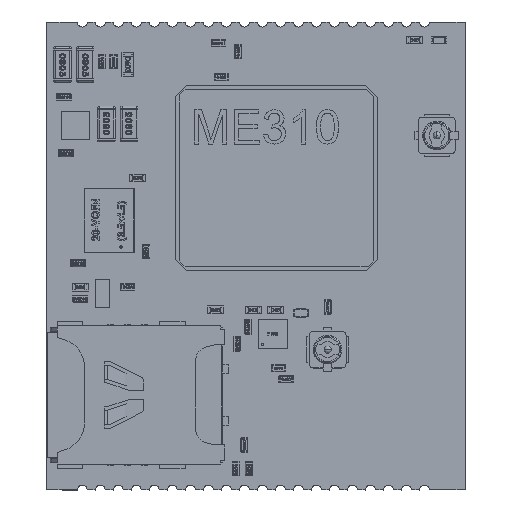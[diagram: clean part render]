
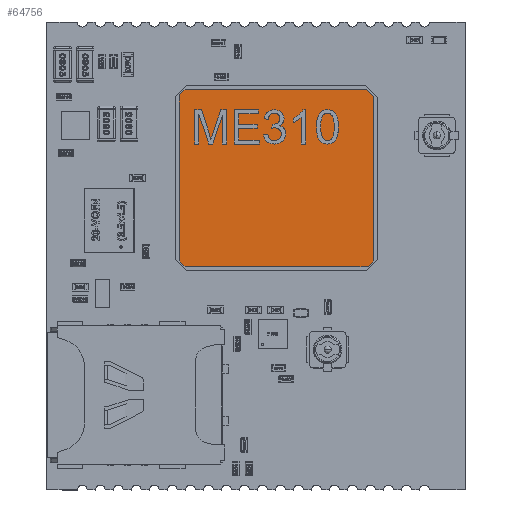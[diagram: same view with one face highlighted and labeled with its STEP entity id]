
A CAD part, top view. The second image highlights one B-rep face of the part: STEP entity #64756.
In plain terms, the highlighted planar face has unit normal (0, 0, 1).
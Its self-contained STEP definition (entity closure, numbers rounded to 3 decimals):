
#64499 = VERTEX_POINT('',#64500);
#64500 = CARTESIAN_POINT('',(-6.85,-5.85,1.8));
#64506 = EDGE_CURVE('',#64499,#64507,#64509,.T.);
#64507 = VERTEX_POINT('',#64508);
#64508 = CARTESIAN_POINT('',(-6.45,-6.25,1.8));
#64509 = LINE('',#64510,#64511);
#64510 = CARTESIAN_POINT('',(-6.85,-5.85,1.8));
#64511 = VECTOR('',#64512,1.);
#64512 = DIRECTION('',(0.707,-0.707,0.));
#64537 = EDGE_CURVE('',#64507,#64538,#64540,.T.);
#64538 = VERTEX_POINT('',#64539);
#64539 = CARTESIAN_POINT('',(6.45,-6.25,1.8));
#64540 = LINE('',#64541,#64542);
#64541 = CARTESIAN_POINT('',(-6.45,-6.25,1.8));
#64542 = VECTOR('',#64543,1.);
#64543 = DIRECTION('',(1.,0.,0.));
#64568 = EDGE_CURVE('',#64538,#64569,#64571,.T.);
#64569 = VERTEX_POINT('',#64570);
#64570 = CARTESIAN_POINT('',(6.85,-5.85,1.8));
#64571 = LINE('',#64572,#64573);
#64572 = CARTESIAN_POINT('',(6.45,-6.25,1.8));
#64573 = VECTOR('',#64574,1.);
#64574 = DIRECTION('',(0.707,0.707,0.));
#64599 = EDGE_CURVE('',#64569,#64600,#64602,.T.);
#64600 = VERTEX_POINT('',#64601);
#64601 = CARTESIAN_POINT('',(6.85,5.75,1.8));
#64602 = LINE('',#64603,#64604);
#64603 = CARTESIAN_POINT('',(6.85,-5.85,1.8));
#64604 = VECTOR('',#64605,1.);
#64605 = DIRECTION('',(0.,1.,0.));
#64630 = EDGE_CURVE('',#64600,#64631,#64633,.T.);
#64631 = VERTEX_POINT('',#64632);
#64632 = CARTESIAN_POINT('',(6.35,6.25,1.8));
#64633 = LINE('',#64634,#64635);
#64634 = CARTESIAN_POINT('',(6.85,5.75,1.8));
#64635 = VECTOR('',#64636,1.);
#64636 = DIRECTION('',(-0.707,0.707,0.));
#64661 = EDGE_CURVE('',#64631,#64662,#64664,.T.);
#64662 = VERTEX_POINT('',#64663);
#64663 = CARTESIAN_POINT('',(-6.45,6.25,1.8));
#64664 = LINE('',#64665,#64666);
#64665 = CARTESIAN_POINT('',(6.35,6.25,1.8));
#64666 = VECTOR('',#64667,1.);
#64667 = DIRECTION('',(-1.,0.,0.));
#64692 = EDGE_CURVE('',#64662,#64693,#64695,.T.);
#64693 = VERTEX_POINT('',#64694);
#64694 = CARTESIAN_POINT('',(-6.85,5.85,1.8));
#64695 = LINE('',#64696,#64697);
#64696 = CARTESIAN_POINT('',(-6.45,6.25,1.8));
#64697 = VECTOR('',#64698,1.);
#64698 = DIRECTION('',(-0.707,-0.707,0.));
#64723 = EDGE_CURVE('',#64693,#64499,#64724,.T.);
#64724 = LINE('',#64725,#64726);
#64725 = CARTESIAN_POINT('',(-6.85,5.85,1.8));
#64726 = VECTOR('',#64727,1.);
#64727 = DIRECTION('',(0.,-1.,0.));
#64756 = ADVANCED_FACE('',(#64757),#64767,.F.);
#64757 = FACE_BOUND('',#64758,.T.);
#64758 = EDGE_LOOP('',(#64759,#64760,#64761,#64762,#64763,#64764,#64765,
    #64766));
#64759 = ORIENTED_EDGE('',*,*,#64506,.T.);
#64760 = ORIENTED_EDGE('',*,*,#64537,.T.);
#64761 = ORIENTED_EDGE('',*,*,#64568,.T.);
#64762 = ORIENTED_EDGE('',*,*,#64599,.T.);
#64763 = ORIENTED_EDGE('',*,*,#64630,.T.);
#64764 = ORIENTED_EDGE('',*,*,#64661,.T.);
#64765 = ORIENTED_EDGE('',*,*,#64692,.T.);
#64766 = ORIENTED_EDGE('',*,*,#64723,.T.);
#64767 = PLANE('',#64768);
#64768 = AXIS2_PLACEMENT_3D('',#64769,#64770,#64771);
#64769 = CARTESIAN_POINT('',(-6.85,-5.85,1.8));
#64770 = DIRECTION('',(0.,0.,-1.));
#64771 = DIRECTION('',(-1.,0.,0.));
